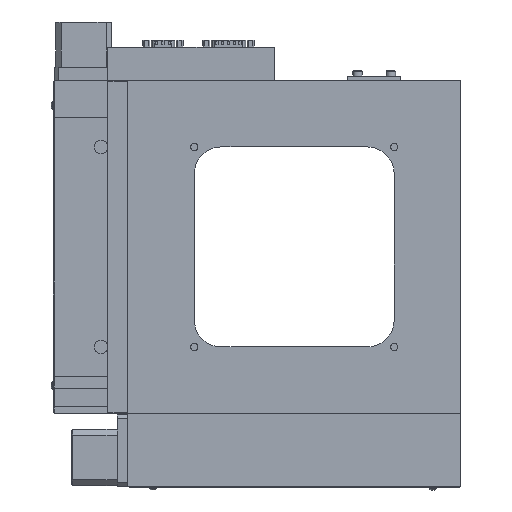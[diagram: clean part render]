
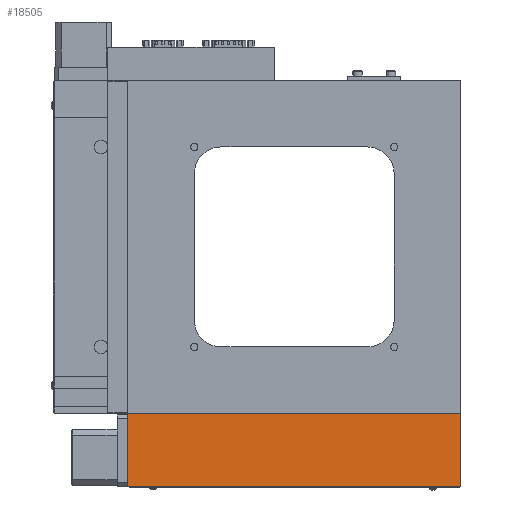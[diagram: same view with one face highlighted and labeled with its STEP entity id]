
A CAD part, front view. The second image highlights one B-rep face of the part: STEP entity #18505.
In plain terms, the highlighted planar face has unit normal (0, -1, 0).
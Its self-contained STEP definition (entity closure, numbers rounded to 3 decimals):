
#123 = ORIENTED_EDGE ( 'NONE', *, *, #49739, .F. ) ;
#773 = CARTESIAN_POINT ( 'NONE',  ( 181.47, 0.2, -125. ) ) ;
#1563 = EDGE_LOOP ( 'NONE', ( #64856, #43947, #4728, #123 ) ) ;
#3391 = CARTESIAN_POINT ( 'NONE',  ( -125., 0.2, -125. ) ) ;
#3588 = VERTEX_POINT ( 'NONE', #11324 ) ;
#4300 = VERTEX_POINT ( 'NONE', #14586 ) ;
#4728 = ORIENTED_EDGE ( 'NONE', *, *, #60695, .F. ) ;
#6424 = LINE ( 'NONE', #773, #37226 ) ;
#8989 = EDGE_CURVE ( 'NONE', #3588, #45856, #37770, .T. ) ;
#11299 = PLANE ( 'NONE',  #29071 ) ;
#11324 = CARTESIAN_POINT ( 'NONE',  ( 125., 0.2, -125. ) ) ;
#12541 = FACE_OUTER_BOUND ( 'NONE', #1563, .T. ) ;
#14060 = DIRECTION ( 'NONE',  ( -1., 0., 0. ) ) ;
#14586 = CARTESIAN_POINT ( 'NONE',  ( -125., 0.2, -125. ) ) ;
#16637 = LINE ( 'NONE', #28598, #54695 ) ;
#17113 = DIRECTION ( 'NONE',  ( -1., 0., 0. ) ) ;
#18505 = ADVANCED_FACE ( 'NONE', ( #12541 ), #11299, .T. ) ;
#20160 = VECTOR ( 'NONE', #56008, 1000. ) ;
#20716 = VERTEX_POINT ( 'NONE', #65793 ) ;
#21911 = CARTESIAN_POINT ( 'NONE',  ( 125., 0.2, -180. ) ) ;
#22566 = CARTESIAN_POINT ( 'NONE',  ( 181.47, 0.2, -125. ) ) ;
#23013 = DIRECTION ( 'NONE',  ( 0., 0., -1. ) ) ;
#28598 = CARTESIAN_POINT ( 'NONE',  ( 181.47, 0.2, -180. ) ) ;
#29071 = AXIS2_PLACEMENT_3D ( 'NONE', #22566, #54260, #23013 ) ;
#31073 = CARTESIAN_POINT ( 'NONE',  ( 125., 0.2, -125. ) ) ;
#31498 = LINE ( 'NONE', #3391, #20160 ) ;
#34535 = VECTOR ( 'NONE', #56740, 1000. ) ;
#37226 = VECTOR ( 'NONE', #17113, 1000. ) ;
#37770 = LINE ( 'NONE', #31073, #34535 ) ;
#41385 = EDGE_CURVE ( 'NONE', #3588, #4300, #6424, .T. ) ;
#43947 = ORIENTED_EDGE ( 'NONE', *, *, #41385, .T. ) ;
#45856 = VERTEX_POINT ( 'NONE', #21911 ) ;
#49739 = EDGE_CURVE ( 'NONE', #45856, #20716, #16637, .T. ) ;
#54260 = DIRECTION ( 'NONE',  ( 0., -1., 0. ) ) ;
#54695 = VECTOR ( 'NONE', #14060, 1000. ) ;
#56008 = DIRECTION ( 'NONE',  ( 0., 0., 1. ) ) ;
#56740 = DIRECTION ( 'NONE',  ( 0., 0., -1. ) ) ;
#60695 = EDGE_CURVE ( 'NONE', #20716, #4300, #31498, .T. ) ;
#64856 = ORIENTED_EDGE ( 'NONE', *, *, #8989, .F. ) ;
#65793 = CARTESIAN_POINT ( 'NONE',  ( -125., 0.2, -180. ) ) ;
